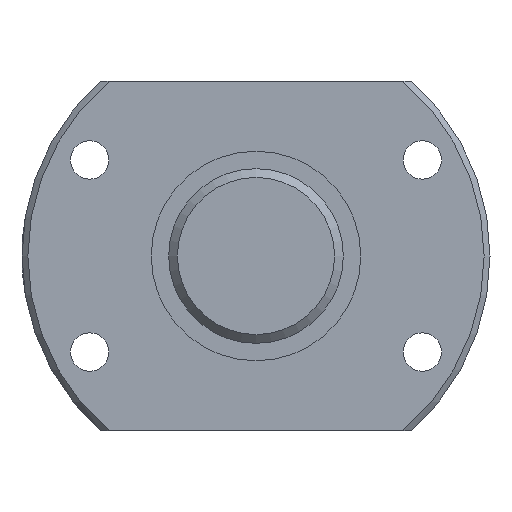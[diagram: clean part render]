
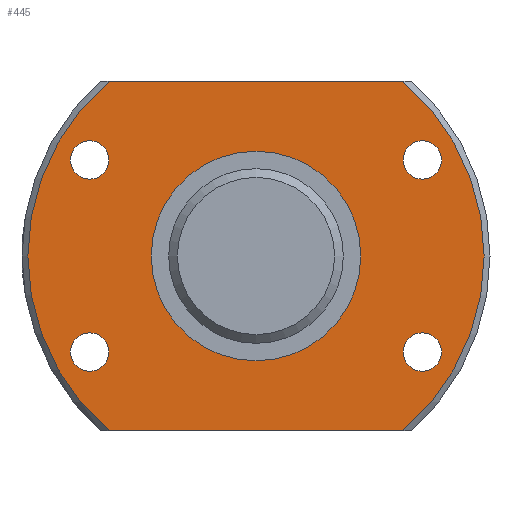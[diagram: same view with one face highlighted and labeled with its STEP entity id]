
A CAD part, left-side view. The second image highlights one B-rep face of the part: STEP entity #445.
In plain terms, the highlighted planar face has unit normal (-1, 0, 0).
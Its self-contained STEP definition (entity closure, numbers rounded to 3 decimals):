
#32=LINE('',#786,#40);
#33=LINE('',#790,#41);
#40=VECTOR('',#613,1000.);
#41=VECTOR('',#616,1000.);
#66=PLANE('',#515);
#102=ORIENTED_EDGE('',*,*,#196,.T.);
#103=ORIENTED_EDGE('',*,*,#197,.F.);
#104=ORIENTED_EDGE('',*,*,#198,.F.);
#105=ORIENTED_EDGE('',*,*,#199,.F.);
#106=ORIENTED_EDGE('',*,*,#186,.F.);
#107=ORIENTED_EDGE('',*,*,#200,.T.);
#108=ORIENTED_EDGE('',*,*,#201,.T.);
#109=ORIENTED_EDGE('',*,*,#202,.T.);
#110=ORIENTED_EDGE('',*,*,#203,.T.);
#186=EDGE_CURVE('',#234,#235,#273,.T.);
#196=EDGE_CURVE('',#244,#244,#278,.T.);
#197=EDGE_CURVE('',#245,#234,#32,.T.);
#198=EDGE_CURVE('',#246,#245,#279,.T.);
#199=EDGE_CURVE('',#235,#246,#33,.T.);
#200=EDGE_CURVE('',#247,#247,#280,.T.);
#201=EDGE_CURVE('',#248,#248,#281,.T.);
#202=EDGE_CURVE('',#249,#249,#282,.T.);
#203=EDGE_CURVE('',#250,#250,#283,.T.);
#234=VERTEX_POINT('',#738);
#235=VERTEX_POINT('',#740);
#244=VERTEX_POINT('',#785);
#245=VERTEX_POINT('',#787);
#246=VERTEX_POINT('',#789);
#247=VERTEX_POINT('',#792);
#248=VERTEX_POINT('',#794);
#249=VERTEX_POINT('',#796);
#250=VERTEX_POINT('',#798);
#273=CIRCLE('',#508,32.663);
#278=CIRCLE('',#516,15.);
#279=CIRCLE('',#517,32.663);
#280=CIRCLE('',#518,2.75);
#281=CIRCLE('',#519,2.75);
#282=CIRCLE('',#520,2.75);
#283=CIRCLE('',#521,2.75);
#314=EDGE_LOOP('',(#102));
#315=EDGE_LOOP('',(#103,#104,#105,#106));
#316=EDGE_LOOP('',(#107));
#317=EDGE_LOOP('',(#108));
#318=EDGE_LOOP('',(#109));
#319=EDGE_LOOP('',(#110));
#376=FACE_BOUND('',#314,.T.);
#377=FACE_BOUND('',#315,.T.);
#378=FACE_BOUND('',#316,.T.);
#379=FACE_BOUND('',#317,.T.);
#380=FACE_BOUND('',#318,.T.);
#381=FACE_BOUND('',#319,.T.);
#445=ADVANCED_FACE('',(#376,#377,#378,#379,#380,#381),#66,.T.);
#508=AXIS2_PLACEMENT_3D('',#739,#593,#594);
#515=AXIS2_PLACEMENT_3D('',#783,#609,#610);
#516=AXIS2_PLACEMENT_3D('',#784,#611,#612);
#517=AXIS2_PLACEMENT_3D('',#788,#614,#615);
#518=AXIS2_PLACEMENT_3D('',#791,#617,#618);
#519=AXIS2_PLACEMENT_3D('',#793,#619,#620);
#520=AXIS2_PLACEMENT_3D('',#795,#621,#622);
#521=AXIS2_PLACEMENT_3D('',#797,#623,#624);
#593=DIRECTION('',(1.,0.,0.));
#594=DIRECTION('',(0.,0.,-1.));
#609=DIRECTION('',(-1.,0.,0.));
#610=DIRECTION('',(0.,0.,1.));
#611=DIRECTION('',(1.,0.,0.));
#612=DIRECTION('',(0.,0.,-1.));
#613=DIRECTION('',(0.,-1.,0.));
#614=DIRECTION('',(1.,0.,0.));
#615=DIRECTION('',(0.,0.,-1.));
#616=DIRECTION('',(0.,1.,0.));
#617=DIRECTION('',(1.,0.,0.));
#618=DIRECTION('',(0.,0.,-1.));
#619=DIRECTION('',(1.,0.,0.));
#620=DIRECTION('',(0.,0.,-1.));
#621=DIRECTION('',(1.,0.,0.));
#622=DIRECTION('',(0.,0.,-1.));
#623=DIRECTION('',(1.,0.,0.));
#624=DIRECTION('',(0.,0.,-1.));
#738=CARTESIAN_POINT('',(0.,-21.02,25.));
#739=CARTESIAN_POINT('',(0.,0.,0.));
#740=CARTESIAN_POINT('',(0.,-21.02,-25.));
#783=CARTESIAN_POINT('',(0.,32.663,0.));
#784=CARTESIAN_POINT('',(0.,0.,0.));
#785=CARTESIAN_POINT('',(0.,0.,-15.));
#786=CARTESIAN_POINT('',(0.,33.6,25.));
#787=CARTESIAN_POINT('',(0.,21.02,25.));
#788=CARTESIAN_POINT('',(0.,0.,0.));
#789=CARTESIAN_POINT('',(0.,21.02,-25.));
#790=CARTESIAN_POINT('',(0.,-33.6,-25.));
#791=CARTESIAN_POINT('',(0.,-23.816,13.75));
#792=CARTESIAN_POINT('',(0.,-23.816,11.));
#793=CARTESIAN_POINT('',(0.,-23.816,-13.75));
#794=CARTESIAN_POINT('',(0.,-23.816,-16.5));
#795=CARTESIAN_POINT('',(0.,23.816,-13.75));
#796=CARTESIAN_POINT('',(0.,23.816,-16.5));
#797=CARTESIAN_POINT('',(0.,23.816,13.75));
#798=CARTESIAN_POINT('',(0.,23.816,11.));
